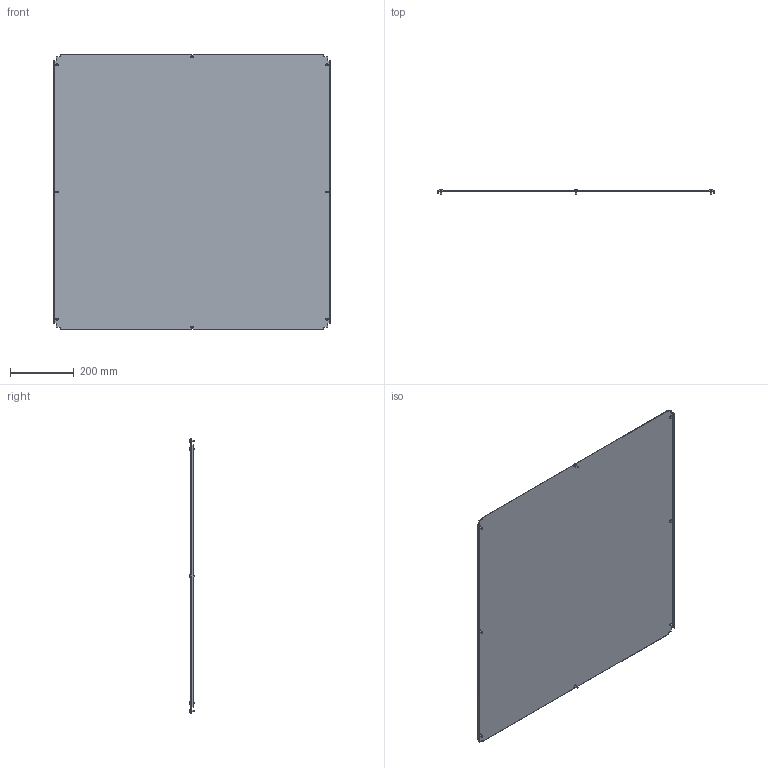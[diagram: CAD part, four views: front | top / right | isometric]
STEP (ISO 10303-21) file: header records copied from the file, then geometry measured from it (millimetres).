
FILE_DESCRIPTION (( 'STEP AP203' ), '1' );
FILE_NAME ('R5N1BP1010.STEP', '2025-02-21T13:56:51', ( '' ), ( '' ), 'SwSTEP 2.0', 'SolidWorks 2022', '' );
FILE_SCHEMA (( 'CONFIG_CONTROL_DESIGN' ));
Length unit declared in the file: millimetre
Products named in the file (3): R5N1BP1010; RB.1923.00.00.0_-16; M5x12 DIN 7500 C Torx Zinc_stright
Assembly tree (9 placements, depth 2):
  R5N1BP1010
    RB.1923.00.00.0_-16
    M5x12 DIN 7500 C Torx Zinc_stright  x8
Bounding box: 868 x 15.56 x 862 mm (x, y, z)
Volume: 1142663.3 mm3; surface area: 1527927 mm2
Topology: 9 solids, 9 shells, 206 faces, 468 edges, 288 vertices
Faces by surface type: plane 126, cylinder 32, torus 16, cone 16, sphere 8, bspline 8
Full cylindrical faces by diameter (mm): 5 x8, 9.5 x8
Entity records: 3641 total; most frequent: CARTESIAN_POINT 724, DIRECTION 496, ORIENTED_EDGE 496, EDGE_CURVE 248, VECTOR 196, LINE 196, VERTEX_POINT 166, AXIS2_PLACEMENT_3D 150
